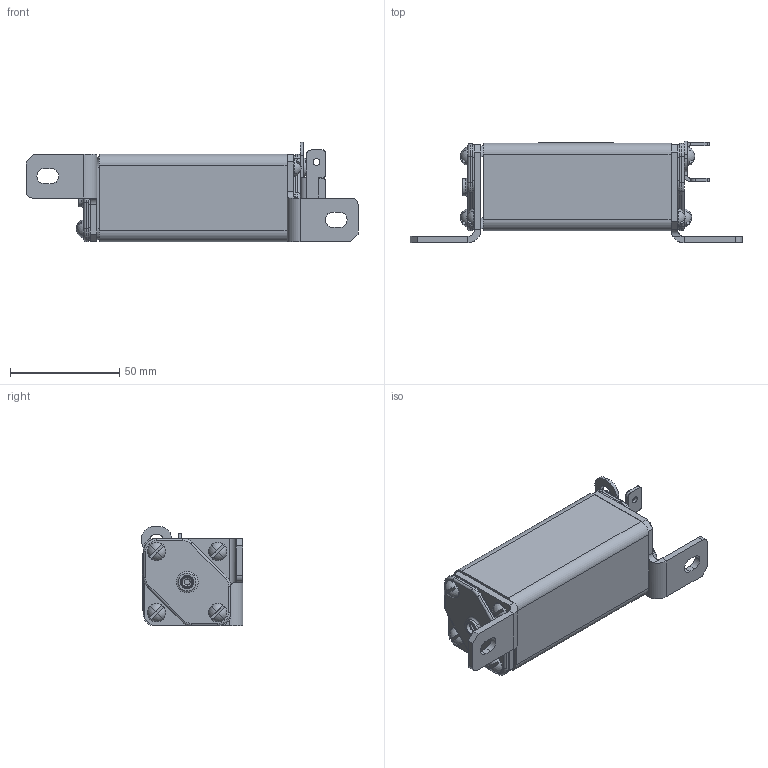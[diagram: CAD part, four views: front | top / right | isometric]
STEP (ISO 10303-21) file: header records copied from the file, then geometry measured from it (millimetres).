
FILE_DESCRIPTION (( 'STEP AP203' ), '1' );
FILE_NAME ('砎槼隰譇膻蠈錪 珫57-3167.STEP', '2014-06-26T11:01:07', ( 'admin' ), ( 'Microsoft' ), 'SwSTEP 2.0', 'SolidWorks 2007', '' );
FILE_SCHEMA (( 'CONFIG_CONTROL_DESIGN' ));
Length unit declared in the file: millimetre
Products named in the file (1): 砎槼隰譇膻蠈錪 珫57-3167
Bounding box: 152 x 46.48 x 45.5 mm (x, y, z)
Surface area: 34163.2 mm2 (no closed solid volume)
Topology: 0 solids, 23 shells, 301 faces, 887 edges, 598 vertices
Faces by surface type: plane 142, cylinder 111, torus 18, sphere 18, cone 12
Entity records: 10263 total; most frequent: DIRECTION 1903, CARTESIAN_POINT 1883, ORIENTED_EDGE 1497, EDGE_CURVE 887, AXIS2_PLACEMENT_3D 720, VERTEX_POINT 598, VECTOR 463, LINE 463
